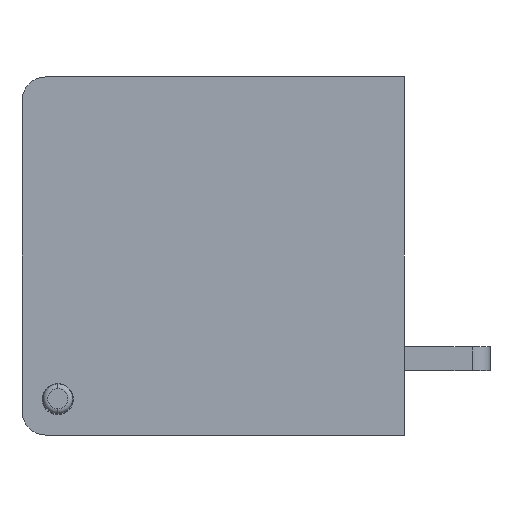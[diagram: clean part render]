
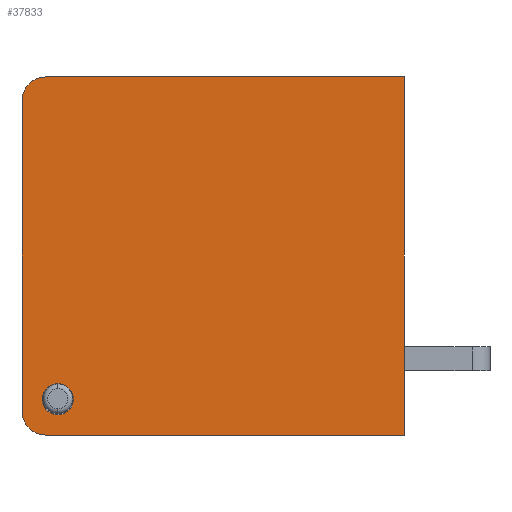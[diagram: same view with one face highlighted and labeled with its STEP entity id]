
A CAD part, left-side view. The second image highlights one B-rep face of the part: STEP entity #37833.
In plain terms, the highlighted planar face has unit normal (-1, 0, 0).
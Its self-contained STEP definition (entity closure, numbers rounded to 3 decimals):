
#263=DIRECTION('',(0.,0.,1.));
#264=VECTOR('',#263,13.);
#265=CARTESIAN_POINT('',(0.,16.,-14.));
#266=LINE('',#265,#264);
#801=DIRECTION('',(0.,1.,0.));
#802=VECTOR('',#801,15.);
#803=CARTESIAN_POINT('',(0.,0.,-15.));
#804=LINE('',#803,#802);
#821=DIRECTION('',(0.,-1.,0.));
#822=VECTOR('',#821,15.);
#823=CARTESIAN_POINT('',(0.,15.,0.));
#824=LINE('',#823,#822);
#13813=DIRECTION('',(0.,0.,-1.));
#13814=VECTOR('',#13813,15.);
#13815=CARTESIAN_POINT('',(0.,0.,0.));
#13816=LINE('',#13815,#13814);
#13817=CARTESIAN_POINT('',(0.,14.5,-13.5));
#13818=DIRECTION('',(1.,0.,0.));
#13819=DIRECTION('',(0.,0.,1.));
#13820=AXIS2_PLACEMENT_3D('',#13817,#13818,#13819);
#13822=CARTESIAN_POINT('',(0.,14.5,-13.5));
#13823=DIRECTION('',(1.,0.,0.));
#13824=DIRECTION('',(0.,0.,-1.));
#13825=AXIS2_PLACEMENT_3D('',#13822,#13823,#13824);
#13827=CARTESIAN_POINT('',(0.,15.,-14.));
#13828=DIRECTION('',(-1.,0.,0.));
#13829=DIRECTION('',(0.,1.,0.));
#13830=AXIS2_PLACEMENT_3D('',#13827,#13828,#13829);
#13832=CARTESIAN_POINT('',(0.,15.,-1.));
#13833=DIRECTION('',(-1.,0.,0.));
#13834=DIRECTION('',(0.,0.,1.));
#13835=AXIS2_PLACEMENT_3D('',#13832,#13833,#13834);
#21062=CARTESIAN_POINT('',(0.,16.,-14.));
#21063=CARTESIAN_POINT('',(0.,15.,-15.));
#21064=VERTEX_POINT('',#21062);
#21065=VERTEX_POINT('',#21063);
#21066=CARTESIAN_POINT('',(0.,16.,-1.));
#21067=VERTEX_POINT('',#21066);
#21068=CARTESIAN_POINT('',(0.,15.,0.));
#21069=VERTEX_POINT('',#21068);
#21070=CARTESIAN_POINT('',(0.,0.,0.));
#21071=VERTEX_POINT('',#21070);
#21072=CARTESIAN_POINT('',(0.,0.,-15.));
#21073=VERTEX_POINT('',#21072);
#21074=CARTESIAN_POINT('',(0.,14.5,-14.15));
#21075=CARTESIAN_POINT('',(0.,14.5,-12.85));
#21076=VERTEX_POINT('',#21074);
#21077=VERTEX_POINT('',#21075);
#37812=CARTESIAN_POINT('',(0.,8.,-7.5));
#37813=DIRECTION('',(1.,0.,0.));
#37814=DIRECTION('',(0.,0.,-1.));
#37815=AXIS2_PLACEMENT_3D('',#37812,#37813,#37814);
#37816=PLANE('',#37815);
#37817=ORIENTED_EDGE('',*,*,#25223,.T.);
#37819=ORIENTED_EDGE('',*,*,#37818,.F.);
#37820=ORIENTED_EDGE('',*,*,#24508,.T.);
#37822=ORIENTED_EDGE('',*,*,#37821,.F.);
#37823=ORIENTED_EDGE('',*,*,#25304,.T.);
#37824=ORIENTED_EDGE('',*,*,#37807,.T.);
#37825=EDGE_LOOP('',(#37817,#37819,#37820,#37822,#37823,#37824));
#37826=FACE_OUTER_BOUND('',#37825,.F.);
#37828=ORIENTED_EDGE('',*,*,#37827,.F.);
#37830=ORIENTED_EDGE('',*,*,#37829,.F.);
#37831=EDGE_LOOP('',(#37828,#37830));
#37832=FACE_BOUND('',#37831,.F.);
#37833=ADVANCED_FACE('',(#37826,#37832),#37816,.F.);
#13821=CIRCLE('',#13820,0.65);
#13826=CIRCLE('',#13825,0.65);
#13831=CIRCLE('',#13830,1.);
#13836=CIRCLE('',#13835,1.);
#24508=EDGE_CURVE('',#21064,#21067,#266,.T.);
#25223=EDGE_CURVE('',#21073,#21065,#804,.T.);
#25304=EDGE_CURVE('',#21069,#21071,#824,.T.);
#37807=EDGE_CURVE('',#21071,#21073,#13816,.T.);
#37818=EDGE_CURVE('',#21064,#21065,#13831,.T.);
#37821=EDGE_CURVE('',#21069,#21067,#13836,.T.);
#37827=EDGE_CURVE('',#21077,#21076,#13821,.T.);
#37829=EDGE_CURVE('',#21076,#21077,#13826,.T.);
